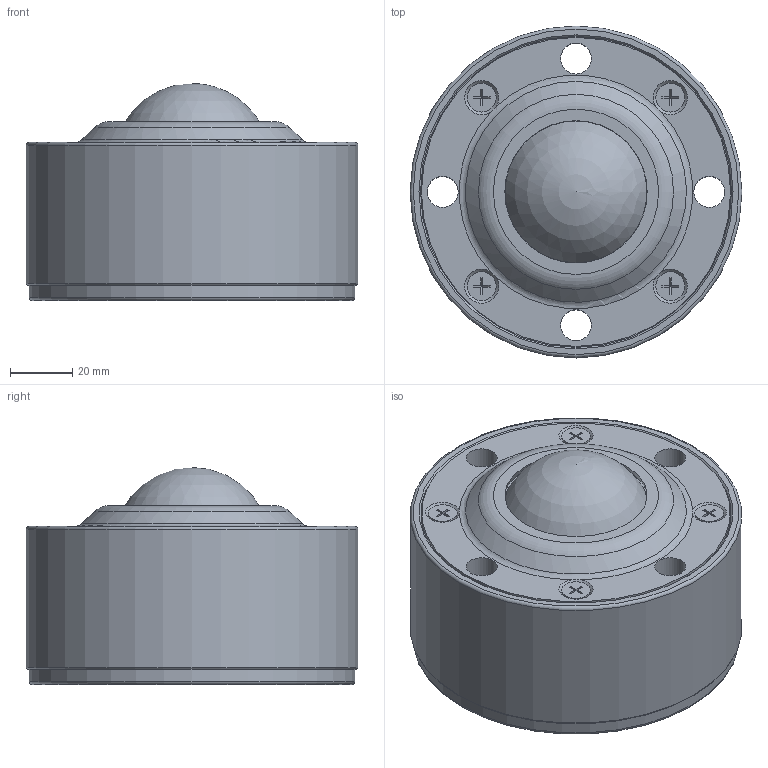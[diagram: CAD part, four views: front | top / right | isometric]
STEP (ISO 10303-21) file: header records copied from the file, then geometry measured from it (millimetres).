
FILE_DESCRIPTION(/* description */ (''),/* implementation_level */ '2;1');
FILE_NAME(/* name */ 'Z:\34-Tei\web 3Dデータ\13-IS型\IS-51.stp',/* time_stamp */ '2015-01-09T11:05:26+09:00',/* author */ ('yamaki'),/* organization */ (''),/* preprocessor_version */ 'ST-DEVELOPER v15.6',/* originating_system */ 'Autodesk Inventor 2015',/* authorisation */ '');
FILE_SCHEMA (('AUTOMOTIVE_DESIGN { 1 0 10303 214 3 1 1 }'));
Length unit declared in the file: millimetre
Products named in the file (1): IS-51
Bounding box: 107 x 107 x 70 mm (x, y, z)
Volume: 472644.4 mm3; surface area: 44724.2 mm2
Topology: 1 solids, 1 shells, 138 faces, 267 edges, 141 vertices
Faces by surface type: plane 112, cylinder 13, cone 7, torus 5, sphere 1
Full cylindrical faces by diameter (mm): 9.3 x4, 10 x4, 30 x1, 99.7 x1, 100.3 x1, 105 x1, 107 x1
Entity records: 3271 total; most frequent: DIRECTION 558, CARTESIAN_POINT 495, ORIENTED_EDGE 456, EDGE_CURVE 228, AXIS2_PLACEMENT_3D 191, EDGE_LOOP 182, LINE 176, VECTOR 176
